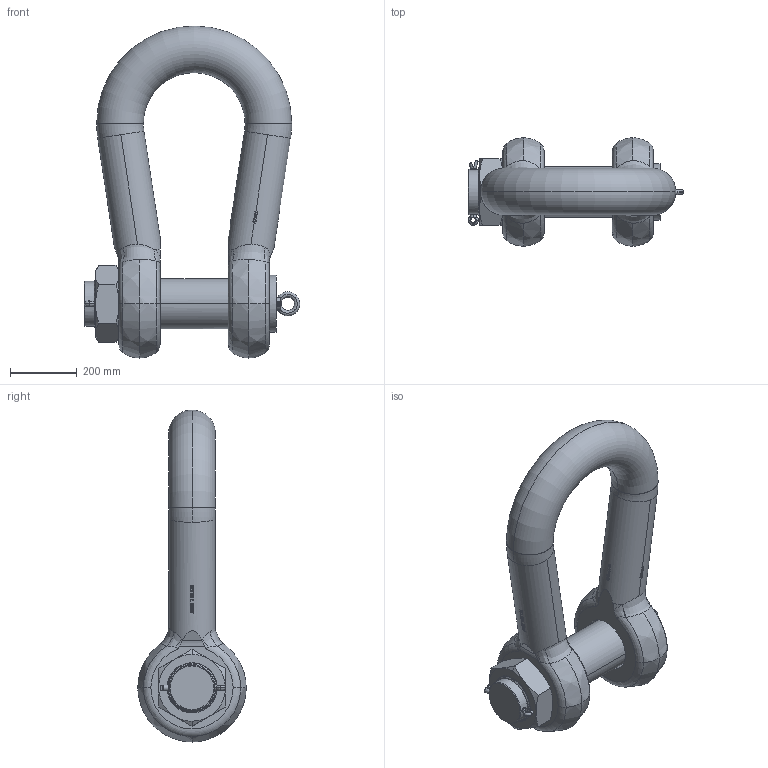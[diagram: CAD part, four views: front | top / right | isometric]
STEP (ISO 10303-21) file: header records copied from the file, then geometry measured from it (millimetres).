
FILE_DESCRIPTION(('STEP AP214'),'1');
FILE_NAME('hdgphm0300.stp','2017-06-30T09:24:11',('TraceParts'),('TraceParts S.A.'),'Spatial InterOp 3D',' ',' ');
FILE_SCHEMA(('automotive_design'));
Length unit declared in the file: millimetre
Products named in the file (5): HDGPHM0300|HDGPHM0300_1#HDGPHM0300_1;MANIFOLD_SOLID_BREP #21414; HDGPHM0300|HDGPHM0300_1#HDGPHM0300_2;MANIFOLD_SOLID_BREP #39157; hdgphm0300_3; hdgphm0300_4; hdgphm0300_5
Bounding box: 646.2 x 325 x 995.5 mm (x, y, z)
Volume: 47640884.9 mm3; surface area: 1678065.2 mm2
Topology: 5 solids, 5 shells, 1292 faces, 5128 edges, 3895 vertices
Faces by surface type: bspline 508, plane 394, cylinder 328, torus 36, cone 26
Entity records: 104927 total; most frequent: CARTESIAN_POINT 60067, ORIENTED_EDGE 10252, EDGE_CURVE 5126, VERTEX_POINT 3895, B_SPLINE_CURVE_WITH_KNOTS 3871, DIRECTION 2883, EDGE_LOOP 1353, STYLED_ITEM 1297
